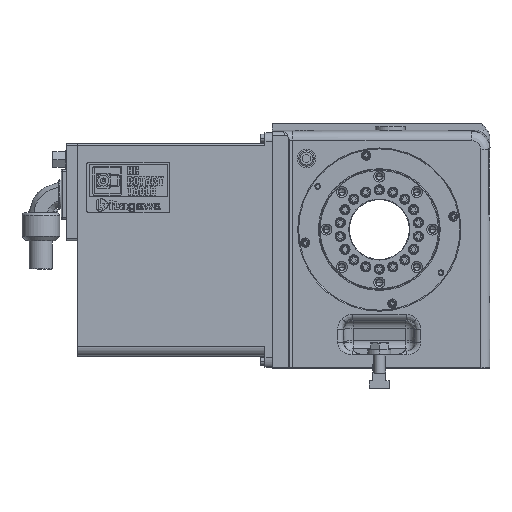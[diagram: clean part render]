
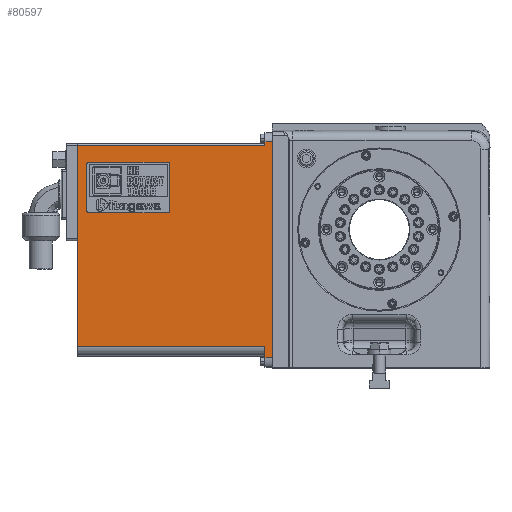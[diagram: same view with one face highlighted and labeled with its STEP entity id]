
A CAD part, top view. The second image highlights one B-rep face of the part: STEP entity #80597.
In plain terms, the highlighted planar face has unit normal (0, 0, 1).
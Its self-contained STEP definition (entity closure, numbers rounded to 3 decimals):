
#223 = EDGE_CURVE ( 'NONE', #45675, #106819, #44431, .T. ) ;
#5775 = VERTEX_POINT ( 'NONE', #24442 ) ;
#6365 = FACE_OUTER_BOUND ( 'NONE', #106385, .T. ) ;
#7070 = LINE ( 'NONE', #10114, #75313 ) ;
#7866 = VECTOR ( 'NONE', #18166, 1000. ) ;
#9192 = CARTESIAN_POINT ( 'NONE',  ( -211., 242., 0. ) ) ;
#10114 = CARTESIAN_POINT ( 'NONE',  ( -8., 10., 0. ) ) ;
#10185 = CARTESIAN_POINT ( 'NONE',  ( -8., 22., 0. ) ) ;
#10577 = ORIENTED_EDGE ( 'NONE', *, *, #40808, .T. ) ;
#10773 = EDGE_CURVE ( 'NONE', #87304, #86938, #95338, .T. ) ;
#11970 = DIRECTION ( 'NONE',  ( 0., -1., 0. ) ) ;
#18166 = DIRECTION ( 'NONE',  ( 0., -1., 0. ) ) ;
#19175 = CARTESIAN_POINT ( 'NONE',  ( -211., 22., 0. ) ) ;
#19319 = VECTOR ( 'NONE', #11970, 1000. ) ;
#19566 = ORIENTED_EDGE ( 'NONE', *, *, #74605, .T. ) ;
#21606 = VECTOR ( 'NONE', #33857, 1000. ) ;
#24376 = VECTOR ( 'NONE', #46627, 1000. ) ;
#24442 = CARTESIAN_POINT ( 'NONE',  ( -8., 10., 0. ) ) ;
#25116 = VERTEX_POINT ( 'NONE', #10185 ) ;
#25828 = VERTEX_POINT ( 'NONE', #30734 ) ;
#27257 = VECTOR ( 'NONE', #69924, 1000. ) ;
#27503 = EDGE_CURVE ( 'NONE', #25116, #5775, #69339, .T. ) ;
#30734 = CARTESIAN_POINT ( 'NONE',  ( 0., 10., 0. ) ) ;
#33857 = DIRECTION ( 'NONE',  ( 0., -1., 0. ) ) ;
#34104 = ORIENTED_EDGE ( 'NONE', *, *, #10773, .F. ) ;
#35504 = LINE ( 'NONE', #106170, #38309 ) ;
#36379 = ORIENTED_EDGE ( 'NONE', *, *, #223, .F. ) ;
#37743 = CARTESIAN_POINT ( 'NONE',  ( -8., 240., 0. ) ) ;
#38309 = VECTOR ( 'NONE', #52896, 1000. ) ;
#38861 = ORIENTED_EDGE ( 'NONE', *, *, #27503, .T. ) ;
#40808 = EDGE_CURVE ( 'NONE', #87304, #77016, #55284, .T. ) ;
#44065 = ORIENTED_EDGE ( 'NONE', *, *, #107566, .F. ) ;
#44431 = LINE ( 'NONE', #82216, #47222 ) ;
#45675 = VERTEX_POINT ( 'NONE', #103461 ) ;
#46627 = DIRECTION ( 'NONE',  ( 1., 0., 0. ) ) ;
#47222 = VECTOR ( 'NONE', #90719, 1000. ) ;
#52096 = CARTESIAN_POINT ( 'NONE',  ( -8., 10., 0. ) ) ;
#52507 = CARTESIAN_POINT ( 'NONE',  ( -8., 10., 0. ) ) ;
#52896 = DIRECTION ( 'NONE',  ( -1., 0., 0. ) ) ;
#52986 = EDGE_CURVE ( 'NONE', #106819, #25828, #113362, .T. ) ;
#54290 = ORIENTED_EDGE ( 'NONE', *, *, #101737, .T. ) ;
#54503 = DIRECTION ( 'NONE',  ( 0., -1., 0. ) ) ;
#55284 = LINE ( 'NONE', #9192, #7866 ) ;
#60681 = DIRECTION ( 'NONE',  ( 0., 0., -1. ) ) ;
#61074 = PLANE ( 'NONE',  #79985 ) ;
#62146 = ORIENTED_EDGE ( 'NONE', *, *, #52986, .F. ) ;
#65896 = CARTESIAN_POINT ( 'NONE',  ( 0., 244., 0. ) ) ;
#69339 = LINE ( 'NONE', #91709, #19319 ) ;
#69917 = DIRECTION ( 'NONE',  ( 1., 0., 0. ) ) ;
#69924 = DIRECTION ( 'NONE',  ( 1., 0., 0. ) ) ;
#71961 = CARTESIAN_POINT ( 'NONE',  ( -8., 240., 0. ) ) ;
#74605 = EDGE_CURVE ( 'NONE', #45675, #86938, #7070, .T. ) ;
#75313 = VECTOR ( 'NONE', #54503, 1000. ) ;
#77016 = VERTEX_POINT ( 'NONE', #19175 ) ;
#79985 = AXIS2_PLACEMENT_3D ( 'NONE', #52096, #60681, #69917 ) ;
#80597 = ADVANCED_FACE ( 'NONE', ( #6365 ), #61074, .F. ) ;
#82216 = CARTESIAN_POINT ( 'NONE',  ( -8., 244., 0. ) ) ;
#86938 = VERTEX_POINT ( 'NONE', #71961 ) ;
#87304 = VERTEX_POINT ( 'NONE', #113025 ) ;
#90719 = DIRECTION ( 'NONE',  ( 1., 0., 0. ) ) ;
#91709 = CARTESIAN_POINT ( 'NONE',  ( -8., 10., 0. ) ) ;
#95338 = LINE ( 'NONE', #37743, #24376 ) ;
#95998 = CARTESIAN_POINT ( 'NONE',  ( 0., 10., 0. ) ) ;
#98158 = LINE ( 'NONE', #52507, #27257 ) ;
#101737 = EDGE_CURVE ( 'NONE', #5775, #25828, #98158, .T. ) ;
#103461 = CARTESIAN_POINT ( 'NONE',  ( -8., 244., 0. ) ) ;
#106170 = CARTESIAN_POINT ( 'NONE',  ( -8., 22., 0. ) ) ;
#106385 = EDGE_LOOP ( 'NONE', ( #10577, #44065, #38861, #54290, #62146, #36379, #19566, #34104 ) ) ;
#106819 = VERTEX_POINT ( 'NONE', #65896 ) ;
#107566 = EDGE_CURVE ( 'NONE', #25116, #77016, #35504, .T. ) ;
#113025 = CARTESIAN_POINT ( 'NONE',  ( -211., 240., 0. ) ) ;
#113362 = LINE ( 'NONE', #95998, #21606 ) ;
